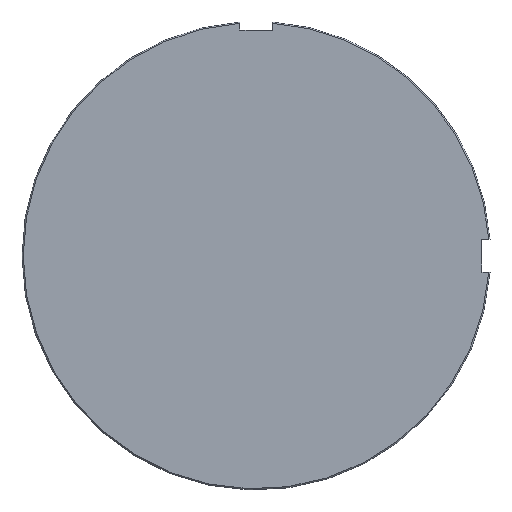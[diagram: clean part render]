
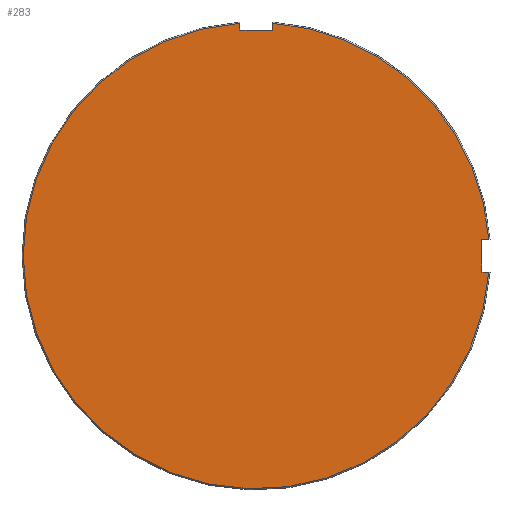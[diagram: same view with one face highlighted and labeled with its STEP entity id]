
A CAD part, top view. The second image highlights one B-rep face of the part: STEP entity #283.
In plain terms, the highlighted planar face has unit normal (0, 0, 1).
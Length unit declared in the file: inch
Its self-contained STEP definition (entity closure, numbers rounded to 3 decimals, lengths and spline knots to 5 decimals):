
#5 = CARTESIAN_POINT ( 'NONE',  ( 1.92026, 0.135, 0. ) ) ;
#23 = EDGE_CURVE ( 'NONE', #456, #325, #522, .T. ) ;
#53 = ORIENTED_EDGE ( 'NONE', *, *, #600, .F. ) ;
#58 = EDGE_CURVE ( 'NONE', #274, #692, #540, .T. ) ;
#65 = VECTOR ( 'NONE', #528, 39.37008 ) ;
#83 = LINE ( 'NONE', #509, #486 ) ;
#96 = CARTESIAN_POINT ( 'NONE',  ( 1.854, -0.135, 0. ) ) ;
#108 = DIRECTION ( 'NONE',  ( 0., 0., 1. ) ) ;
#109 = CARTESIAN_POINT ( 'NONE',  ( -0.135, 1.92026, 0. ) ) ;
#112 = LINE ( 'NONE', #463, #65 ) ;
#114 = ORIENTED_EDGE ( 'NONE', *, *, #541, .F. ) ;
#115 = VECTOR ( 'NONE', #248, 39.37008 ) ;
#125 = AXIS2_PLACEMENT_3D ( 'NONE', #513, #172, #694 ) ;
#147 = VERTEX_POINT ( 'NONE', #442 ) ;
#161 = VERTEX_POINT ( 'NONE', #389 ) ;
#164 = EDGE_CURVE ( 'NONE', #147, #161, #83, .T. ) ;
#166 = ORIENTED_EDGE ( 'NONE', *, *, #58, .F. ) ;
#168 = CARTESIAN_POINT ( 'NONE',  ( 0., 0., 0. ) ) ;
#172 = DIRECTION ( 'NONE',  ( 0., 0., 1. ) ) ;
#190 = ORIENTED_EDGE ( 'NONE', *, *, #434, .T. ) ;
#202 = VERTEX_POINT ( 'NONE', #462 ) ;
#224 = FACE_OUTER_BOUND ( 'NONE', #337, .T. ) ;
#245 = ORIENTED_EDGE ( 'NONE', *, *, #726, .F. ) ;
#248 = DIRECTION ( 'NONE',  ( -1., 0., 0. ) ) ;
#255 = VECTOR ( 'NONE', #667, 39.37008 ) ;
#274 = VERTEX_POINT ( 'NONE', #295 ) ;
#282 = ORIENTED_EDGE ( 'NONE', *, *, #507, .T. ) ;
#283 = ADVANCED_FACE ( 'NONE', ( #224 ), #761, .T. ) ;
#290 = DIRECTION ( 'NONE',  ( 1., 0., 0. ) ) ;
#295 = CARTESIAN_POINT ( 'NONE',  ( 1.91024, 0.135, 0. ) ) ;
#302 = CARTESIAN_POINT ( 'NONE',  ( 1.91024, -0.135, 0. ) ) ;
#325 = VERTEX_POINT ( 'NONE', #302 ) ;
#337 = EDGE_LOOP ( 'NONE', ( #114, #282, #611, #53, #245, #166, #190, #749, #531 ) ) ;
#340 = DIRECTION ( 'NONE',  ( 0., -1., 0. ) ) ;
#342 = LINE ( 'NONE', #577, #482 ) ;
#343 = DIRECTION ( 'NONE',  ( 1., 0., 0. ) ) ;
#357 = CARTESIAN_POINT ( 'NONE',  ( 1.854, 0.135, 0. ) ) ;
#358 = DIRECTION ( 'NONE',  ( 1., 0., 0. ) ) ;
#365 = AXIS2_PLACEMENT_3D ( 'NONE', #168, #108, #343 ) ;
#385 = DIRECTION ( 'NONE',  ( 1., 0., 0. ) ) ;
#389 = CARTESIAN_POINT ( 'NONE',  ( 0.135, 1.91024, 0. ) ) ;
#415 = CARTESIAN_POINT ( 'NONE',  ( 1.854, 0.135, 0. ) ) ;
#420 = VERTEX_POINT ( 'NONE', #670 ) ;
#426 = CARTESIAN_POINT ( 'NONE',  ( -1.915, 0., 0. ) ) ;
#427 = DIRECTION ( 'NONE',  ( 0., 0., 1. ) ) ;
#431 = CARTESIAN_POINT ( 'NONE',  ( 0., 0., 0. ) ) ;
#434 = EDGE_CURVE ( 'NONE', #274, #161, #581, .T. ) ;
#442 = CARTESIAN_POINT ( 'NONE',  ( 0.135, 1.854, 0. ) ) ;
#456 = VERTEX_POINT ( 'NONE', #426 ) ;
#462 = CARTESIAN_POINT ( 'NONE',  ( -0.135, 1.854, 0. ) ) ;
#463 = CARTESIAN_POINT ( 'NONE',  ( -0.135, 1.854, 0. ) ) ;
#474 = CARTESIAN_POINT ( 'NONE',  ( 0., 0., 0. ) ) ;
#482 = VECTOR ( 'NONE', #290, 39.37008 ) ;
#486 = VECTOR ( 'NONE', #681, 39.37008 ) ;
#507 = EDGE_CURVE ( 'NONE', #420, #456, #633, .T. ) ;
#509 = CARTESIAN_POINT ( 'NONE',  ( 0.135, 1.854, 0. ) ) ;
#513 = CARTESIAN_POINT ( 'NONE',  ( 0., 0., 0. ) ) ;
#515 = VERTEX_POINT ( 'NONE', #96 ) ;
#522 = CIRCLE ( 'NONE', #573, 1.915 ) ;
#528 = DIRECTION ( 'NONE',  ( 1., 0., 0. ) ) ;
#531 = ORIENTED_EDGE ( 'NONE', *, *, #765, .F. ) ;
#538 = LINE ( 'NONE', #415, #255 ) ;
#540 = LINE ( 'NONE', #5, #115 ) ;
#541 = EDGE_CURVE ( 'NONE', #420, #202, #640, .T. ) ;
#573 = AXIS2_PLACEMENT_3D ( 'NONE', #474, #427, #358 ) ;
#577 = CARTESIAN_POINT ( 'NONE',  ( 1.854, -0.135, 0. ) ) ;
#581 = CIRCLE ( 'NONE', #679, 1.915 ) ;
#600 = EDGE_CURVE ( 'NONE', #515, #325, #342, .T. ) ;
#611 = ORIENTED_EDGE ( 'NONE', *, *, #23, .T. ) ;
#613 = DIRECTION ( 'NONE',  ( 0., 0., 1. ) ) ;
#633 = CIRCLE ( 'NONE', #125, 1.915 ) ;
#640 = LINE ( 'NONE', #109, #752 ) ;
#667 = DIRECTION ( 'NONE',  ( 0., -1., 0. ) ) ;
#670 = CARTESIAN_POINT ( 'NONE',  ( -0.135, 1.91024, 0. ) ) ;
#679 = AXIS2_PLACEMENT_3D ( 'NONE', #431, #613, #385 ) ;
#681 = DIRECTION ( 'NONE',  ( 0., 1., 0. ) ) ;
#692 = VERTEX_POINT ( 'NONE', #357 ) ;
#694 = DIRECTION ( 'NONE',  ( 1., 0., 0. ) ) ;
#726 = EDGE_CURVE ( 'NONE', #692, #515, #538, .T. ) ;
#749 = ORIENTED_EDGE ( 'NONE', *, *, #164, .F. ) ;
#752 = VECTOR ( 'NONE', #340, 39.37008 ) ;
#761 = PLANE ( 'NONE',  #365 ) ;
#765 = EDGE_CURVE ( 'NONE', #202, #147, #112, .T. ) ;
